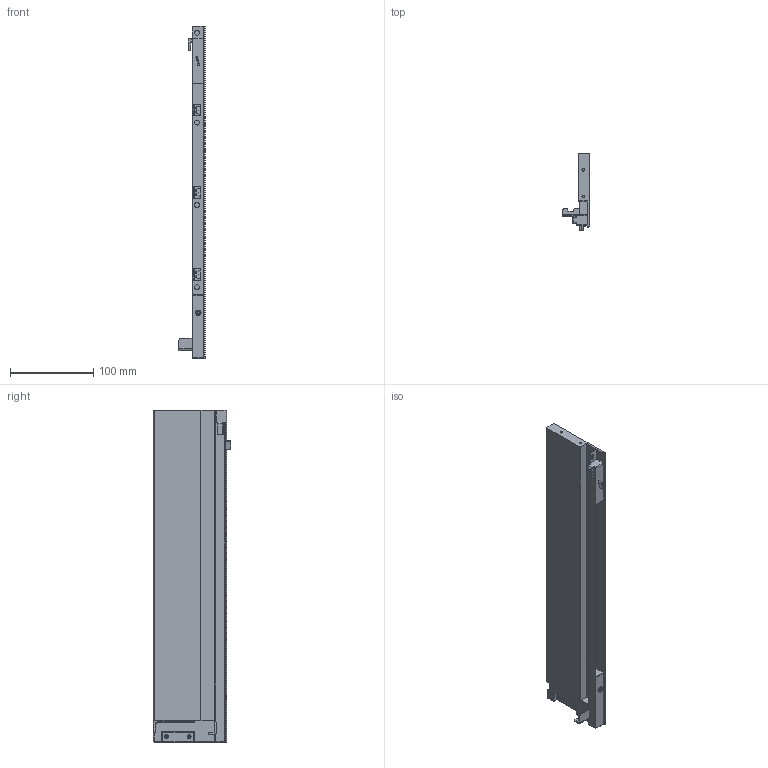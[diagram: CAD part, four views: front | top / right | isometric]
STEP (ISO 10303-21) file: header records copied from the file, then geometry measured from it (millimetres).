
FILE_DESCRIPTION (( 'STEP AP203' ), '1' );
FILE_NAME ('HT114001-R.STEP', '2020-09-14T00:49:50', ( 'Users' ), ( 'Microsoft' ), 'SwSTEP 2.0', 'SolidWorks 2018', '' );
FILE_SCHEMA (( 'CONFIG_CONTROL_DESIGN' ));
Length unit declared in the file: millimetre
Products named in the file (1): HT114001-R
Bounding box: 31.3 x 93 x 399 mm (x, y, z)
Volume: 346373.6 mm3; surface area: 101051.6 mm2
Topology: 1 solids, 8 shells, 402 faces, 1019 edges, 633 vertices
Faces by surface type: plane 199, cylinder 139, torus 29, bspline 23, cone 6, sphere 6
Entity records: 12556 total; most frequent: CARTESIAN_POINT 2954, ORIENTED_EDGE 2020, DIRECTION 1947, EDGE_CURVE 1010, AXIS2_PLACEMENT_3D 660, VERTEX_POINT 633, LINE 627, VECTOR 627
